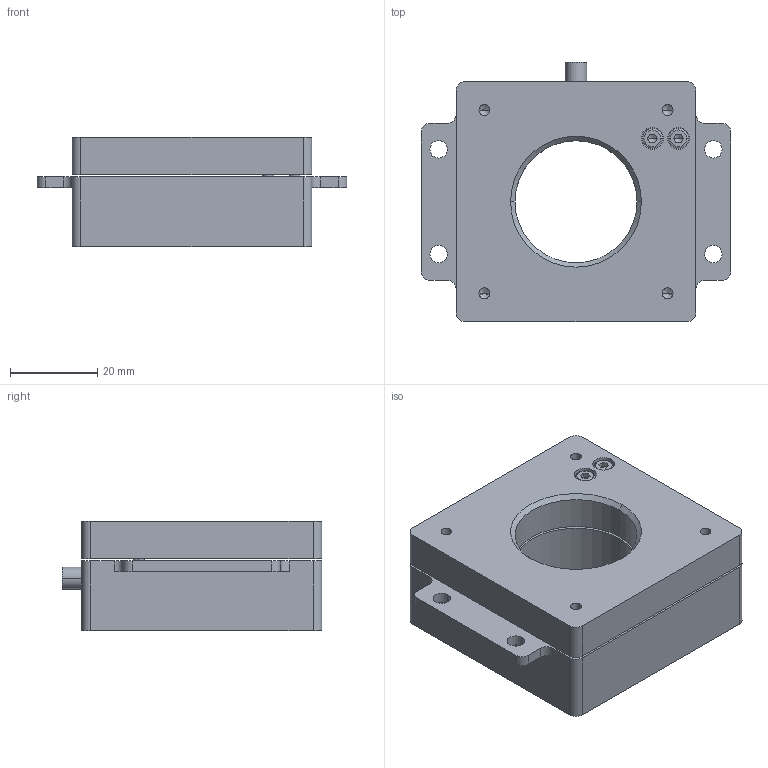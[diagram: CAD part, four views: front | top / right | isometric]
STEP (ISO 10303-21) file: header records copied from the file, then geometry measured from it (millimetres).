
FILE_DESCRIPTION (( 'STEP AP203' ), '1' );
FILE_NAME ('23063需求评估装配体.STEP', '2024-03-05T00:36:04', ( 'daohangxitong.com' ), ( 'daohangxitong.com' ), 'SwSTEP 2.0', 'SolidWorks 2016', '' );
FILE_SCHEMA (( 'CONFIG_CONTROL_DESIGN' ));
Length unit declared in the file: millimetre
Products named in the file (5): M5-0.5誘杶; 菁釱; hexagon socket head cap screws gb_GB_FASTENER_SCREWS_HSHCS M2.5X8-N; 23063剒⑴ぜ嘛蚾饜极; 怢醱
Assembly tree (7 placements, depth 2):
  23063剒⑴ぜ嘛蚾饜极
    菁釱
    怢醱
    hexagon socket head cap screws gb_GB_FASTENER_SCREWS_HSHCS M2.5X8-N  x4
    M5-0.5誘杶
Bounding box: 71 x 59.5 x 25 mm (x, y, z)
Volume: 59990 mm3; surface area: 19611.9 mm2
Topology: 7 solids, 7 shells, 201 faces, 470 edges, 288 vertices
Faces by surface type: plane 91, cylinder 74, cone 28, torus 8
Entity records: 4269 total; most frequent: DIRECTION 706, CARTESIAN_POINT 617, ORIENTED_EDGE 584, EDGE_CURVE 292, AXIS2_PLACEMENT_3D 278, VERTEX_POINT 189, EDGE_LOOP 155, VECTOR 150
